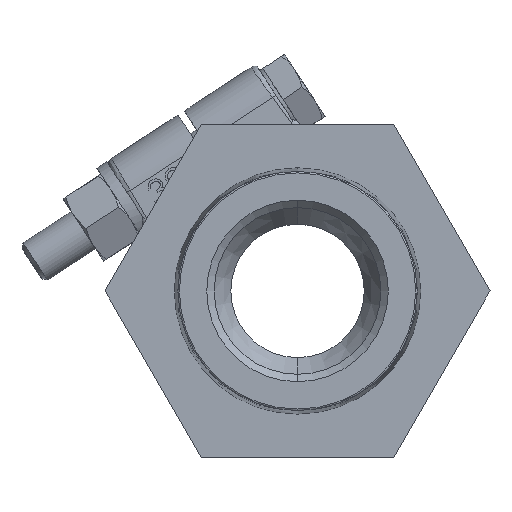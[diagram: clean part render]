
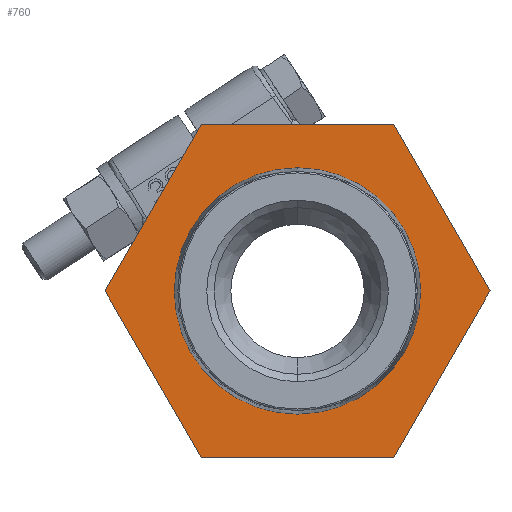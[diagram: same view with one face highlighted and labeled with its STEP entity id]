
A CAD part, front view. The second image highlights one B-rep face of the part: STEP entity #760.
In plain terms, the highlighted planar face has unit normal (0, -1, 0).
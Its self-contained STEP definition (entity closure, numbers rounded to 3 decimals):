
#342 = EDGE_LOOP ( 'NONE', ( #4649, #4640, #4646, #4647, #4632, #4644 ) ) ;
#760 = ADVANCED_FACE ( 'NONE', ( #8605, #8601 ), #8606, .T. ) ;
#2374 = LINE ( 'NONE', #2381, #7917 ) ;
#2377 = LINE ( 'NONE', #2384, #7918 ) ;
#2381 = CARTESIAN_POINT ( 'NONE',  ( -12.99, 17.7, -22.5 ) ) ;
#2383 = DIRECTION ( 'NONE',  ( 1., 0., 0. ) ) ;
#2384 = CARTESIAN_POINT ( 'NONE',  ( 12.99, 17.7, -22.5 ) ) ;
#2385 = DIRECTION ( 'NONE',  ( 0.5, 0., 0.866 ) ) ;
#2386 = LINE ( 'NONE', #2387, #7920 ) ;
#2387 = CARTESIAN_POINT ( 'NONE',  ( 25.981, 17.7, 0. ) ) ;
#2388 = DIRECTION ( 'NONE',  ( -0.5, 0., 0.866 ) ) ;
#2389 = LINE ( 'NONE', #2390, #7921 ) ;
#2390 = CARTESIAN_POINT ( 'NONE',  ( 12.99, 17.7, 22.5 ) ) ;
#2391 = DIRECTION ( 'NONE',  ( -1., 0., 0. ) ) ;
#2392 = LINE ( 'NONE', #2393, #7922 ) ;
#2393 = CARTESIAN_POINT ( 'NONE',  ( -12.99, 17.7, 22.5 ) ) ;
#2394 = DIRECTION ( 'NONE',  ( -0.5, 0., -0.866 ) ) ;
#2395 = LINE ( 'NONE', #2396, #7923 ) ;
#2396 = CARTESIAN_POINT ( 'NONE',  ( -25.981, 17.7, 0. ) ) ;
#2397 = DIRECTION ( 'NONE',  ( 0.5, 0., -0.866 ) ) ;
#2399 = CARTESIAN_POINT ( 'NONE',  ( 0., 17.7, 0. ) ) ;
#2400 = DIRECTION ( 'NONE',  ( 0., -1., 0. ) ) ;
#2401 = DIRECTION ( 'NONE',  ( 0., 0., -1. ) ) ;
#2762 = CIRCLE ( 'NONE', #2768, 16.625 ) ;
#2768 = AXIS2_PLACEMENT_3D ( 'NONE', #5535, #5536, #5537 ) ;
#3650 = EDGE_LOOP ( 'NONE', ( #4629, #4645 ) ) ;
#4629 = ORIENTED_EDGE ( 'NONE', *, *, #9585, .F. ) ;
#4632 = ORIENTED_EDGE ( 'NONE', *, *, #9376, .T. ) ;
#4640 = ORIENTED_EDGE ( 'NONE', *, *, #9373, .T. ) ;
#4644 = ORIENTED_EDGE ( 'NONE', *, *, #9377, .T. ) ;
#4645 = ORIENTED_EDGE ( 'NONE', *, *, #9378, .F. ) ;
#4646 = ORIENTED_EDGE ( 'NONE', *, *, #9374, .T. ) ;
#4647 = ORIENTED_EDGE ( 'NONE', *, *, #9375, .T. ) ;
#4649 = ORIENTED_EDGE ( 'NONE', *, *, #9372, .T. ) ;
#5535 = CARTESIAN_POINT ( 'NONE',  ( 0., 17.7, 0. ) ) ;
#5536 = DIRECTION ( 'NONE',  ( 0., -1., 0. ) ) ;
#5537 = DIRECTION ( 'NONE',  ( 0., 0., -1. ) ) ;
#5795 = AXIS2_PLACEMENT_3D ( 'NONE', #8596, #8608, #8609 ) ;
#6299 = VERTEX_POINT ( 'NONE', #8685 ) ;
#6318 = VERTEX_POINT ( 'NONE', #8704 ) ;
#6319 = VERTEX_POINT ( 'NONE', #8705 ) ;
#6320 = VERTEX_POINT ( 'NONE', #8706 ) ;
#6322 = VERTEX_POINT ( 'NONE', #8708 ) ;
#6335 = VERTEX_POINT ( 'NONE', #8721 ) ;
#6339 = VERTEX_POINT ( 'NONE', #8725 ) ;
#6393 = VERTEX_POINT ( 'NONE', #8779 ) ;
#7917 = VECTOR ( 'NONE', #2383, 1000. ) ;
#7918 = VECTOR ( 'NONE', #2385, 1000. ) ;
#7920 = VECTOR ( 'NONE', #2388, 1000. ) ;
#7921 = VECTOR ( 'NONE', #2391, 1000. ) ;
#7922 = VECTOR ( 'NONE', #2394, 1000. ) ;
#7923 = VECTOR ( 'NONE', #2397, 1000. ) ;
#7924 = CIRCLE ( 'NONE', #7926, 16.625 ) ;
#7926 = AXIS2_PLACEMENT_3D ( 'NONE', #2399, #2400, #2401 ) ;
#8596 = CARTESIAN_POINT ( 'NONE',  ( 12.99, 17.7, -22.5 ) ) ;
#8601 = FACE_BOUND ( 'NONE', #3650, .T. ) ;
#8605 = FACE_OUTER_BOUND ( 'NONE', #342, .T. ) ;
#8606 = PLANE ( 'NONE',  #5795 ) ;
#8608 = DIRECTION ( 'NONE',  ( 0., -1., 0. ) ) ;
#8609 = DIRECTION ( 'NONE',  ( 0., 0., -1. ) ) ;
#8685 = CARTESIAN_POINT ( 'NONE',  ( 0., 17.7, 16.625 ) ) ;
#8704 = CARTESIAN_POINT ( 'NONE',  ( -25.981, 17.7, 0. ) ) ;
#8705 = CARTESIAN_POINT ( 'NONE',  ( -12.99, 17.7, 22.5 ) ) ;
#8706 = CARTESIAN_POINT ( 'NONE',  ( 12.99, 17.7, 22.5 ) ) ;
#8708 = CARTESIAN_POINT ( 'NONE',  ( 25.981, 17.7, 0. ) ) ;
#8721 = CARTESIAN_POINT ( 'NONE',  ( 12.99, 17.7, -22.5 ) ) ;
#8725 = CARTESIAN_POINT ( 'NONE',  ( -12.99, 17.7, -22.5 ) ) ;
#8779 = CARTESIAN_POINT ( 'NONE',  ( 0., 17.7, -16.625 ) ) ;
#9372 = EDGE_CURVE ( 'NONE', #6339, #6335, #2374, .T. ) ;
#9373 = EDGE_CURVE ( 'NONE', #6335, #6322, #2377, .T. ) ;
#9374 = EDGE_CURVE ( 'NONE', #6322, #6320, #2386, .T. ) ;
#9375 = EDGE_CURVE ( 'NONE', #6320, #6319, #2389, .T. ) ;
#9376 = EDGE_CURVE ( 'NONE', #6319, #6318, #2392, .T. ) ;
#9377 = EDGE_CURVE ( 'NONE', #6318, #6339, #2395, .T. ) ;
#9378 = EDGE_CURVE ( 'NONE', #6299, #6393, #7924, .T. ) ;
#9585 = EDGE_CURVE ( 'NONE', #6393, #6299, #2762, .T. ) ;
